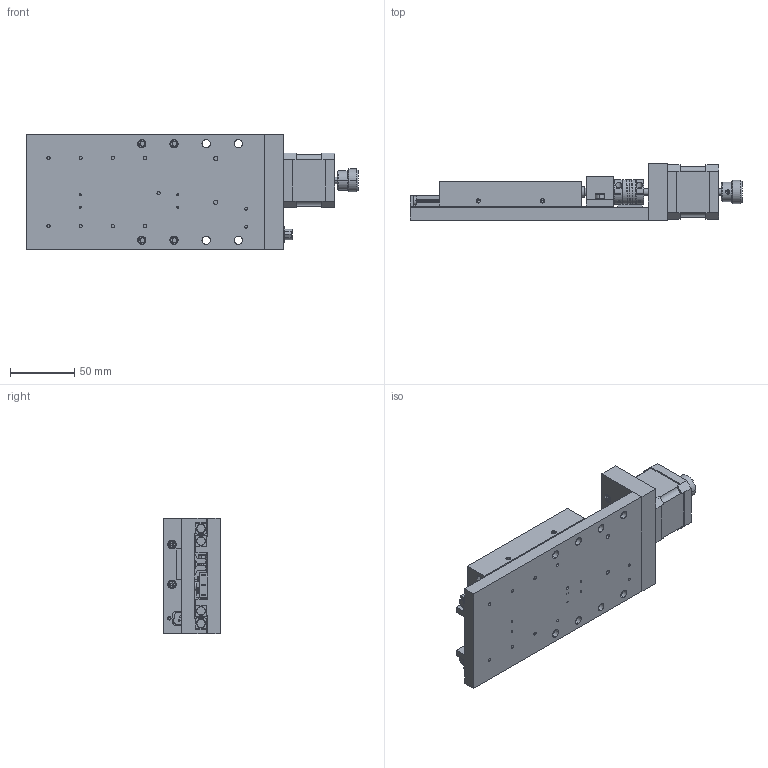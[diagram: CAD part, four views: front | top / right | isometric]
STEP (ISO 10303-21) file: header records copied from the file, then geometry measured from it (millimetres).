
FILE_DESCRIPTION (( 'STEP AP203' ), '1' );
FILE_NAME ('MOX-02-50.STEP', '2014-04-21T10:03:40', ( '' ), ( '' ), 'SwSTEP 2.0', 'SolidWorks 2014', '' );
FILE_SCHEMA (( 'CONFIG_CONTROL_DESIGN' ));
Products named in the file (1): MOX-02-50
Bounding box: 258 x 44 x 90 mm (x, y, z)
Volume: 441412.1 mm3; surface area: 160626 mm2
Topology: 70 solids, 70 shells, 2353 faces, 5738 edges, 3650 vertices
Faces by surface type: plane 1178, cylinder 813, cone 220, bspline 142
Entity records: 72153 total; most frequent: CARTESIAN_POINT 16370, DIRECTION 11864, ORIENTED_EDGE 11308, EDGE_CURVE 5654, AXIS2_PLACEMENT_3D 4452, VERTEX_POINT 3650, LINE 2960, VECTOR 2960
